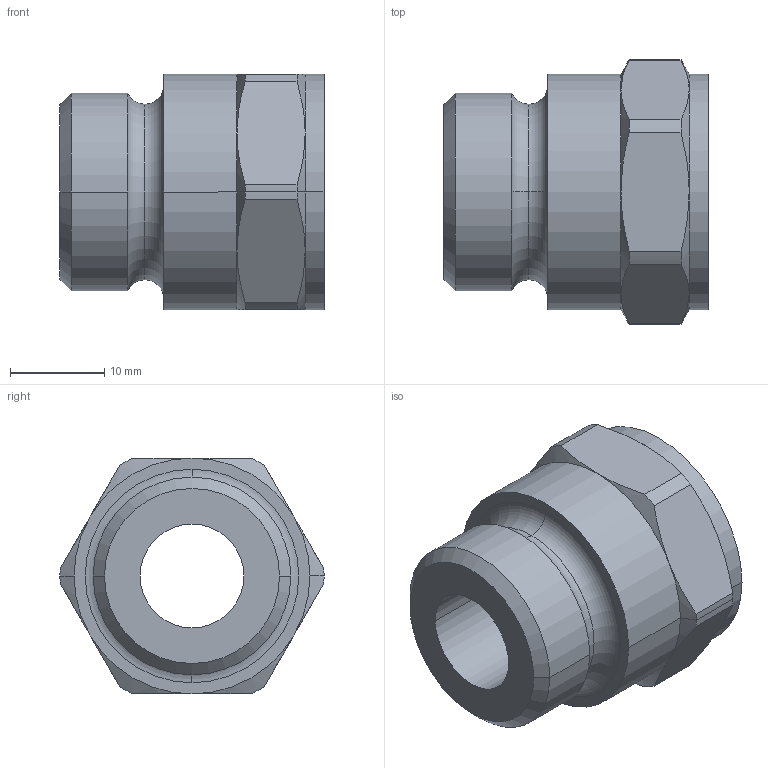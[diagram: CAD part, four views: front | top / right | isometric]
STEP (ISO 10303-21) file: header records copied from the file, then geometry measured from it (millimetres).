
FILE_DESCRIPTION((''),'2;1');
FILE_NAME('G:\BIR\Pajchrowski\projekty\8000 models\4370g\4370g STEP\4370g_12-12.stp','2006-04-28T10:06:27',('pajchrowski'),(''),'Autodesk Inventor 8','Autodesk Inventor 8','');
FILE_SCHEMA(('AUTOMOTIVE_DESIGN { 1 0 10303 214 1 1 1 1 }'));
Length unit declared in the file: millimetre
Products named in the file (1): 4370g_12-12
Bounding box: 28 x 28 x 25 mm (x, y, z)
Volume: 6947.1 mm3; surface area: 4206.2 mm2
Topology: 1 solids, 1 shells, 52 faces, 119 edges, 71 vertices
Faces by surface type: cone 20, cylinder 18, plane 10, torus 4
Entity records: 1469 total; most frequent: CARTESIAN_POINT 291, DIRECTION 264, ORIENTED_EDGE 238, EDGE_CURVE 119, AXIS2_PLACEMENT_3D 116, VERTEX_POINT 71, CIRCLE 63, EDGE_LOOP 56
